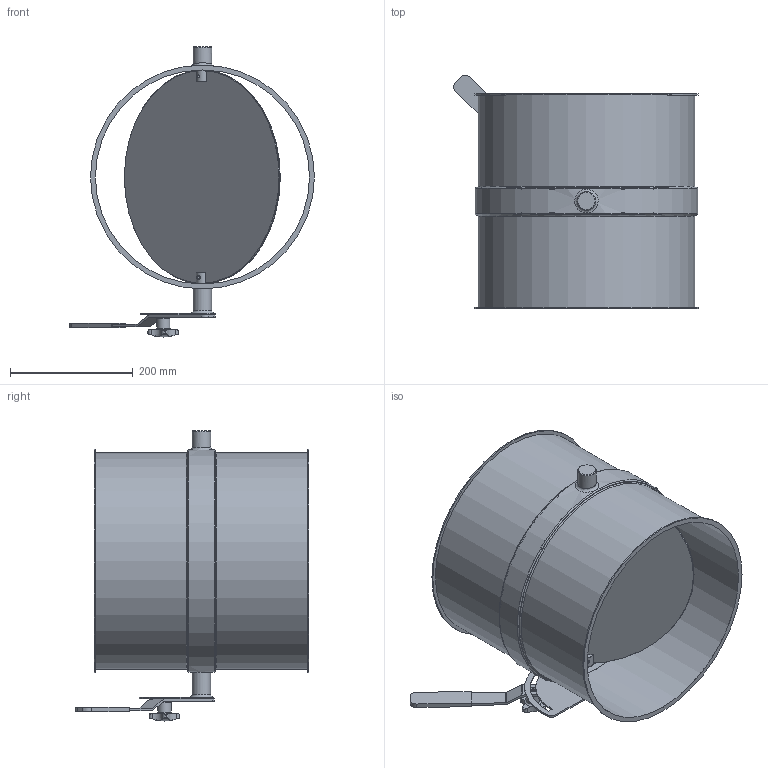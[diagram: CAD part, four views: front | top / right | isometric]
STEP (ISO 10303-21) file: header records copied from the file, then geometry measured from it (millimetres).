
FILE_DESCRIPTION((''),'2;1');
FILE_NAME('U:\Wolfgang\Marcel-3D\fertig\Kapitel 8\3521076.stp','2012-01-13T11:22:06',('iwienholt'),(''),'Autodesk Inventor 2010','Autodesk Inventor 2010','');
FILE_SCHEMA(('AUTOMOTIVE_DESIGN { 1 0 10303 214 1 1 1 1 }'));
Length unit declared in the file: millimetre
Products named in the file (7): 3521076; Bolzen D20; ganter_din_6335-ku-50-m10-k; Umstellsegment D20; Scheibe350b; Griff D20b; 3521076-1
Assembly tree (6 placements, depth 2):
  3521076
    Bolzen D20
    ganter_din_6335-ku-50-m10-k
    Umstellsegment D20
    Scheibe350b
    Griff D20b
    3521076-1
Bounding box: 399.09 x 380.83 x 473 mm (x, y, z)
Volume: 1454183.4 mm3; surface area: 1164557.1 mm2
Topology: 6 solids, 6 shells, 137 faces, 334 edges, 222 vertices
Faces by surface type: cylinder 54, plane 53, torus 13, bspline 11, cone 5, sphere 1
Full cylindrical faces by diameter (mm): 6 x4, 8 x1, 9 x1, 10 x2, 16 x1, 20 x8, 22 x1, 30 x3, 349 x3, 350 x1, 353 x2, 358 x1, 359 x1, 363 x1, 365 x2
Entity records: 5161 total; most frequent: CARTESIAN_POINT 1984, DIRECTION 626, ORIENTED_EDGE 532, AXIS2_PLACEMENT_3D 270, EDGE_CURVE 266, EDGE_LOOP 228, VERTEX_POINT 206, FACE_OUTER_BOUND 137
